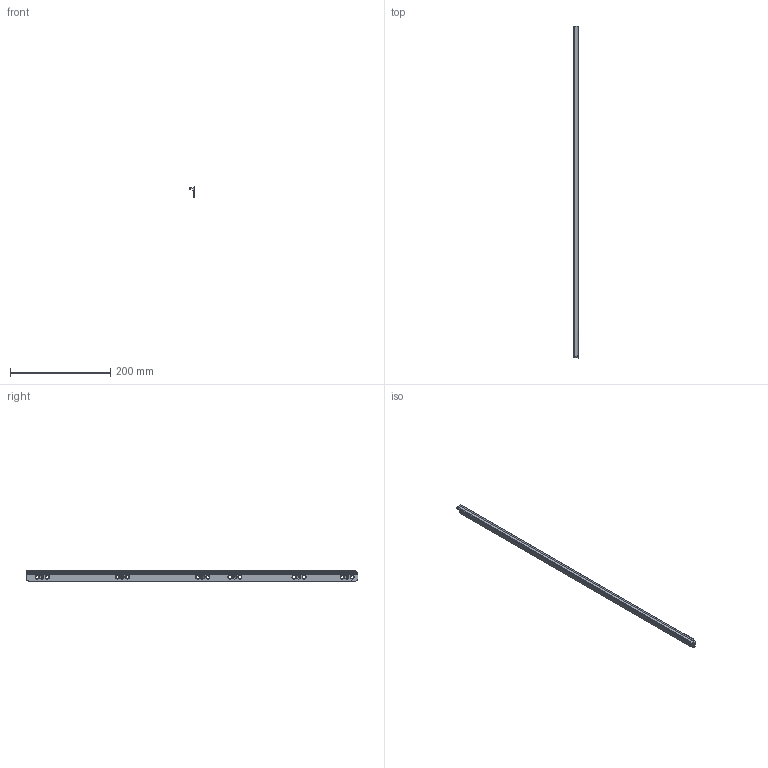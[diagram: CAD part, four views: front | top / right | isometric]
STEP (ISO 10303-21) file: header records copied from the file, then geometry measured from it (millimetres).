
FILE_DESCRIPTION (( 'STEP AP214' ), '1' );
FILE_NAME ('Zahnstange-rechts_NL650_K760018100.step', '2010-09-22T07:56:45', ( 'grass' ), ( '' ), 'SwSTEP 2.0', 'SolidWorks 2010', '' );
FILE_SCHEMA (( 'AUTOMOTIVE_DESIGN' ));
Length unit declared in the file: millimetre
Products named in the file (1): Zahnstange-rechts_NL650_K760018100
Bounding box: 9.5 x 662 x 20 mm (x, y, z)
Volume: 41026.3 mm3; surface area: 39915.2 mm2
Topology: 1 solids, 1 shells, 116 faces, 286 edges, 171 vertices
Faces by surface type: cylinder 64, cone 36, plane 16
Entity records: 3521 total; most frequent: DIRECTION 650, CARTESIAN_POINT 595, ORIENTED_EDGE 572, EDGE_CURVE 286, AXIS2_PLACEMENT_3D 254, VERTEX_POINT 171, EDGE_LOOP 151, VECTOR 142
